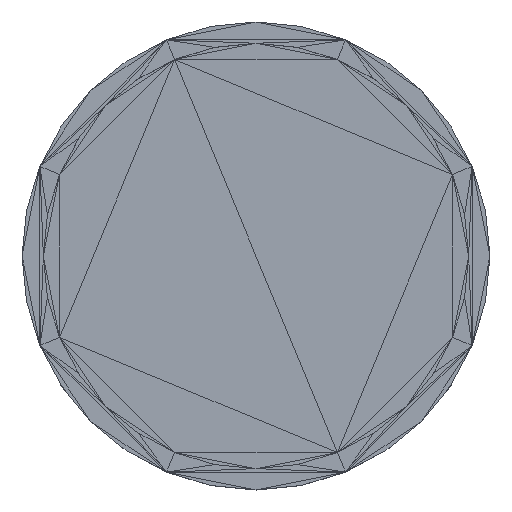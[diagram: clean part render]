
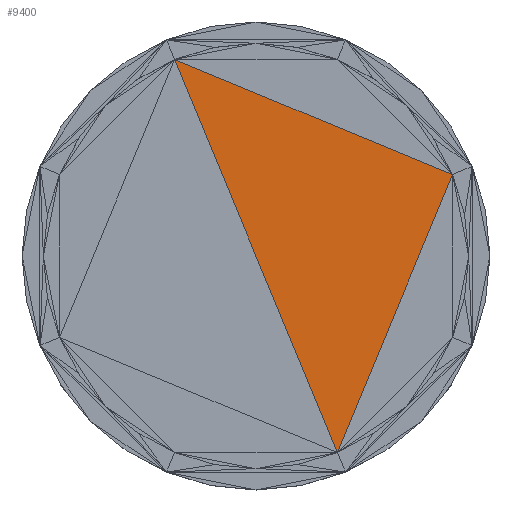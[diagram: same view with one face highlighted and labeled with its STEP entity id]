
A CAD part, top view. The second image highlights one B-rep face of the part: STEP entity #9400.
In plain terms, the highlighted planar face has unit normal (0, 0, 1).
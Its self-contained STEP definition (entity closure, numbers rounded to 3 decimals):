
#6570 = VERTEX_POINT('',#6571);
#6571 = CARTESIAN_POINT('',(-0.173,0.369,
    0.757));
#7198 = VERTEX_POINT('',#7199);
#7199 = CARTESIAN_POINT('',(-0.2,0.304,0.757)
  );
#8428 = VERTEX_POINT('',#8429);
#8429 = CARTESIAN_POINT('',(-0.238,0.396,
    0.757));
#9088 = PLANE('',#9089);
#9089 = AXIS2_PLACEMENT_3D('',#9090,#9091,#9092);
#9090 = CARTESIAN_POINT('',(-0.183,0.335,
    0.757));
#9091 = DIRECTION('',(0.,0.,1.));
#9092 = DIRECTION('',(1.,0.,0.));
#9143 = PLANE('',#9144);
#9144 = AXIS2_PLACEMENT_3D('',#9145,#9146,#9147);
#9145 = CARTESIAN_POINT('',(-0.204,0.386,
    0.757));
#9146 = DIRECTION('',(0.,0.,1.));
#9147 = DIRECTION('',(1.,0.,-0.));
#9294 = EDGE_CURVE('',#6570,#7198,#9295,.T.);
#9295 = SURFACE_CURVE('',#9296,(#9300,#9307),.PCURVE_S1.);
#9296 = LINE('',#9297,#9298);
#9297 = CARTESIAN_POINT('',(-0.173,0.369,
    0.757));
#9298 = VECTOR('',#9299,1.);
#9299 = DIRECTION('',(-0.383,-0.924,0.));
#9300 = PCURVE('',#9088,#9301);
#9301 = DEFINITIONAL_REPRESENTATION('',(#9302),#9306);
#9302 = LINE('',#9303,#9304);
#9303 = CARTESIAN_POINT('',(0.01,0.034));
#9304 = VECTOR('',#9305,1.);
#9305 = DIRECTION('',(-0.383,-0.924));
#9306 = ( GEOMETRIC_REPRESENTATION_CONTEXT(2) 
PARAMETRIC_REPRESENTATION_CONTEXT() REPRESENTATION_CONTEXT('2D SPACE',''
  ) );
#9307 = PCURVE('',#9308,#9313);
#9308 = PLANE('',#9309);
#9309 = AXIS2_PLACEMENT_3D('',#9310,#9311,#9312);
#9310 = CARTESIAN_POINT('',(-0.206,0.356,
    0.757));
#9311 = DIRECTION('',(0.,0.,1.));
#9312 = DIRECTION('',(1.,0.,0.));
#9313 = DEFINITIONAL_REPRESENTATION('',(#9314),#9317);
#9314 = B_SPLINE_CURVE_WITH_KNOTS('',1,(#9315,#9316),.UNSPECIFIED.,.F.,
  .F.,(2,2),(0.,0.071),.PIECEWISE_BEZIER_KNOTS.);
#9315 = CARTESIAN_POINT('',(0.033,0.014));
#9316 = CARTESIAN_POINT('',(0.006,-0.052));
#9317 = ( GEOMETRIC_REPRESENTATION_CONTEXT(2) 
PARAMETRIC_REPRESENTATION_CONTEXT() REPRESENTATION_CONTEXT('2D SPACE',''
  ) );
#9324 = EDGE_CURVE('',#8428,#6570,#9325,.T.);
#9325 = SURFACE_CURVE('',#9326,(#9330,#9337),.PCURVE_S1.);
#9326 = LINE('',#9327,#9328);
#9327 = CARTESIAN_POINT('',(-0.238,0.396,
    0.757));
#9328 = VECTOR('',#9329,1.);
#9329 = DIRECTION('',(0.924,-0.383,0.));
#9330 = PCURVE('',#9143,#9331);
#9331 = DEFINITIONAL_REPRESENTATION('',(#9332),#9336);
#9332 = LINE('',#9333,#9334);
#9333 = CARTESIAN_POINT('',(-0.034,0.01));
#9334 = VECTOR('',#9335,1.);
#9335 = DIRECTION('',(0.924,-0.383));
#9336 = ( GEOMETRIC_REPRESENTATION_CONTEXT(2) 
PARAMETRIC_REPRESENTATION_CONTEXT() REPRESENTATION_CONTEXT('2D SPACE',''
  ) );
#9337 = PCURVE('',#9308,#9338);
#9338 = DEFINITIONAL_REPRESENTATION('',(#9339),#9342);
#9339 = B_SPLINE_CURVE_WITH_KNOTS('',1,(#9340,#9341),.UNSPECIFIED.,.F.,
  .F.,(2,2),(0.,0.071),.PIECEWISE_BEZIER_KNOTS.);
#9340 = CARTESIAN_POINT('',(-0.033,0.041));
#9341 = CARTESIAN_POINT('',(0.033,0.014));
#9342 = ( GEOMETRIC_REPRESENTATION_CONTEXT(2) 
PARAMETRIC_REPRESENTATION_CONTEXT() REPRESENTATION_CONTEXT('2D SPACE',''
  ) );
#9363 = PLANE('',#9364);
#9364 = AXIS2_PLACEMENT_3D('',#9365,#9366,#9367);
#9365 = CARTESIAN_POINT('',(-0.233,0.345,
    0.757));
#9366 = DIRECTION('',(0.,0.,1.));
#9367 = DIRECTION('',(1.,0.,-0.));
#9400 = ADVANCED_FACE('',(#9401),#9308,.T.);
#9401 = FACE_BOUND('',#9402,.T.);
#9402 = EDGE_LOOP('',(#9403,#9423,#9424));
#9403 = ORIENTED_EDGE('',*,*,#9404,.T.);
#9404 = EDGE_CURVE('',#8428,#7198,#9405,.T.);
#9405 = SURFACE_CURVE('',#9406,(#9410,#9417),.PCURVE_S1.);
#9406 = LINE('',#9407,#9408);
#9407 = CARTESIAN_POINT('',(-0.238,0.396,
    0.757));
#9408 = VECTOR('',#9409,1.);
#9409 = DIRECTION('',(0.383,-0.924,0.));
#9410 = PCURVE('',#9308,#9411);
#9411 = DEFINITIONAL_REPRESENTATION('',(#9412),#9416);
#9412 = LINE('',#9413,#9414);
#9413 = CARTESIAN_POINT('',(-0.033,0.041));
#9414 = VECTOR('',#9415,1.);
#9415 = DIRECTION('',(0.383,-0.924));
#9416 = ( GEOMETRIC_REPRESENTATION_CONTEXT(2) 
PARAMETRIC_REPRESENTATION_CONTEXT() REPRESENTATION_CONTEXT('2D SPACE',''
  ) );
#9417 = PCURVE('',#9363,#9418);
#9418 = DEFINITIONAL_REPRESENTATION('',(#9419),#9422);
#9419 = B_SPLINE_CURVE_WITH_KNOTS('',1,(#9420,#9421),.UNSPECIFIED.,.F.,
  .F.,(2,2),(0.,0.1),.PIECEWISE_BEZIER_KNOTS.);
#9420 = CARTESIAN_POINT('',(-0.006,0.052));
#9421 = CARTESIAN_POINT('',(0.033,-0.041));
#9422 = ( GEOMETRIC_REPRESENTATION_CONTEXT(2) 
PARAMETRIC_REPRESENTATION_CONTEXT() REPRESENTATION_CONTEXT('2D SPACE',''
  ) );
#9423 = ORIENTED_EDGE('',*,*,#9294,.F.);
#9424 = ORIENTED_EDGE('',*,*,#9324,.F.);
